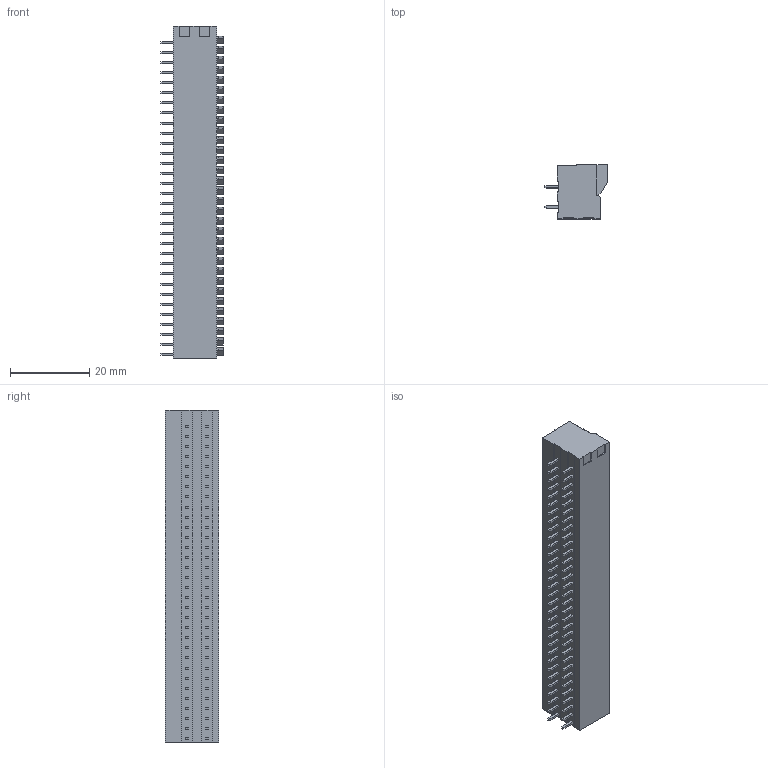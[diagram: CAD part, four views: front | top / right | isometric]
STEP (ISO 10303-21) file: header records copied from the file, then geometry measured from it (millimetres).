
FILE_DESCRIPTION((''),'2;1');
FILE_NAME('32','2020-06-04T',('P'),(''),'PRO/ENGINEER BY PARAMETRIC TECHNOLOGY CORPORATION, 2010280','PRO/ENGINEER BY PARAMETRIC TECHNOLOGY CORPORATION, 2010280','');
FILE_SCHEMA(('CONFIG_CONTROL_DESIGN'));
Length unit declared in the file: millimetre
Products named in the file (1): 32
Bounding box: 15.8 x 13.6 x 83.82 mm (x, y, z)
Volume: 11608.9 mm3; surface area: 7631.7 mm2
Topology: 1 solids, 1 shells, 1627 faces, 4459 edges, 2962 vertices
Faces by surface type: plane 1338, cylinder 161, cone 64, bspline 64
Entity records: 52825 total; most frequent: CARTESIAN_POINT 11352, ORIENTED_EDGE 8918, DIRECTION 7971, EDGE_CURVE 4459, VECTOR 3817, LINE 3817, VERTEX_POINT 2962, AXIS2_PLACEMENT_3D 2077
